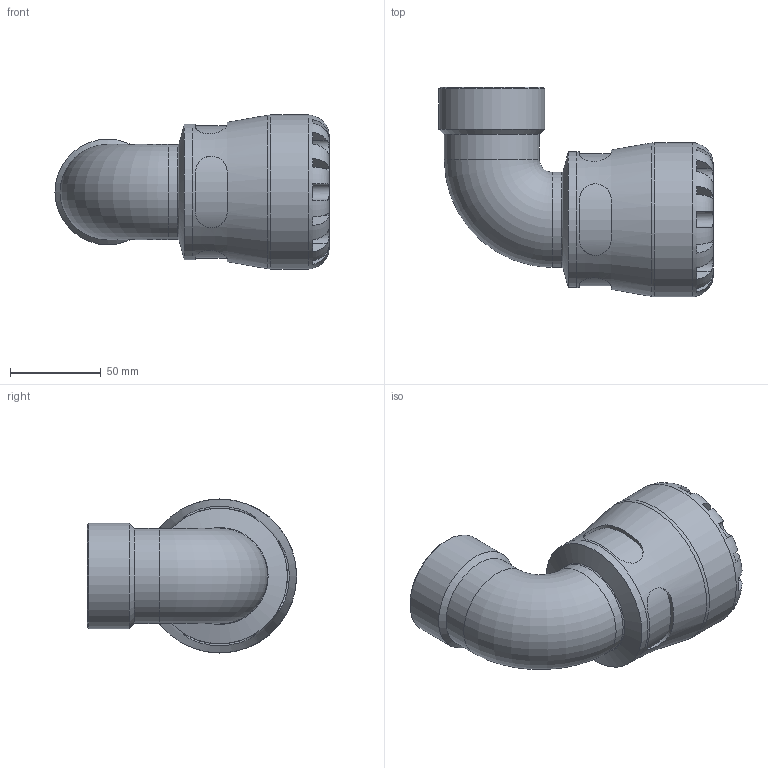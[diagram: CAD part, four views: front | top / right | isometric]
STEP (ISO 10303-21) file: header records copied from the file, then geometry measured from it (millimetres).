
FILE_DESCRIPTION(/* description */ ('PLASSON 90° ELBOW WITH FEMALE INTEGRAL BRASS 50X1.1/2" SERIES 1'),/* implementation_level */ '2;1');
FILE_NAME(/* name */ 'C:\Dropbox\KIMPROJECTS-Inventor\99-16-3568-Processing\S1\1076\107600050015_197600050015.ipt.stp',/* time_stamp */ '2018-05-13T11:03:03+03:00',/* author */ ('KIM'),/* organization */ (''),/* preprocessor_version */ 'ST-DEVELOPER v15.6',/* originating_system */ 'Autodesk Inventor 2015',/* authorisation */ '');
FILE_SCHEMA (('AUTOMOTIVE_DESIGN { 1 0 10303 214 3 1 1 }'));
Length unit declared in the file: millimetre
Products named in the file (1): 107600050015_197600050015
Bounding box: 151.15 x 115.5 x 85 mm (x, y, z)
Volume: 335516 mm3; surface area: 72262.9 mm2
Topology: 1 solids, 1 shells, 108 faces, 265 edges, 164 vertices
Faces by surface type: plane 60, cylinder 37, torus 6, cone 5
Full cylindrical faces by diameter (mm): 40.361 x2, 44.845 x1, 50 x1, 52.469 x2, 58.298 x1, 74.8 x1, 85 x1
Entity records: 3980 total; most frequent: CARTESIAN_POINT 1455, DIRECTION 488, ORIENTED_EDGE 478, EDGE_CURVE 239, AXIS2_PLACEMENT_3D 204, VERTEX_POINT 159, EDGE_LOOP 136, STYLED_ITEM 109
